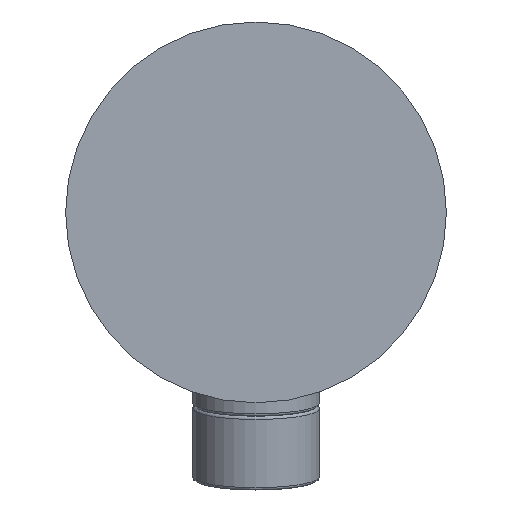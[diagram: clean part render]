
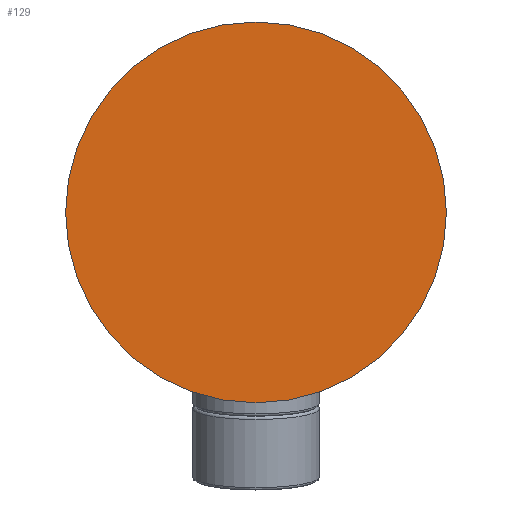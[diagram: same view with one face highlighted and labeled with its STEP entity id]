
A CAD part, left-side view. The second image highlights one B-rep face of the part: STEP entity #129.
In plain terms, the highlighted planar face has unit normal (-1, 0, 0).
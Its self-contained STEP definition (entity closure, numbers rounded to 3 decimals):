
#129=ADVANCED_FACE('',(#235),#237,.F.);
#235=FACE_BOUND('',#236,.T.);
#236=EDGE_LOOP('',(#278));
#237=PLANE('',#238);
#238=AXIS2_PLACEMENT_3D('',#239,#240,#241);
#239=CARTESIAN_POINT('',(0.,0.,0.));
#240=DIRECTION('',(1.,0.,0.));
#241=DIRECTION('',(0.,1.,0.));
#278=ORIENTED_EDGE('',*,*,#295,.F.);
#295=EDGE_CURVE('',#318,#318,#319,.T.);
#318=VERTEX_POINT('',#375);
#319=CIRCLE('',#376,33.);
#375=CARTESIAN_POINT('',(0.,33.,0.));
#376=AXIS2_PLACEMENT_3D('',#377,#378,#379);
#377=CARTESIAN_POINT('',(0.,0.,0.));
#378=DIRECTION('',(1.,0.,0.));
#379=DIRECTION('',(0.,1.,0.));
